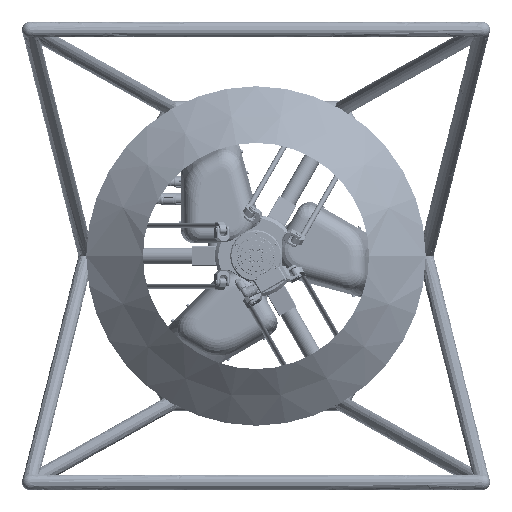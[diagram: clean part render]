
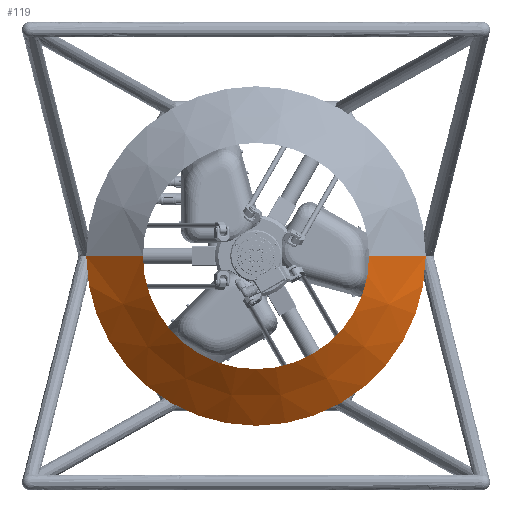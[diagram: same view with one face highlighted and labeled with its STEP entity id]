
A CAD part, front view. The second image highlights one B-rep face of the part: STEP entity #119.
In plain terms, the highlighted conical face has half-angle 51.34 degrees and reference radius 250 mm.
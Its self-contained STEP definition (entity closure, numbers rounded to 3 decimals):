
#68=DIRECTION('',(0.781,-0.625,0.));
#69=VECTOR('',#68,128.062);
#70=CARTESIAN_POINT('',(-300.,-595.,0.));
#71=LINE('',#70,#69);
#72=CARTESIAN_POINT('',(0.,-675.,0.));
#73=DIRECTION('',(0.,-1.,0.));
#74=DIRECTION('',(-1.,0.,0.));
#75=AXIS2_PLACEMENT_3D('',#72,#73,#74);
#77=DIRECTION('',(-0.781,-0.625,0.));
#78=VECTOR('',#77,128.062);
#79=CARTESIAN_POINT('',(300.,-595.,0.));
#80=LINE('',#79,#78);
#81=CARTESIAN_POINT('',(0.,-595.,0.));
#82=DIRECTION('',(0.,1.,0.));
#83=DIRECTION('',(1.,0.,0.));
#84=AXIS2_PLACEMENT_3D('',#81,#82,#83);
#96=CARTESIAN_POINT('',(-300.,-595.,0.));
#97=CARTESIAN_POINT('',(-200.,-675.,0.));
#98=VERTEX_POINT('',#96);
#99=VERTEX_POINT('',#97);
#100=CARTESIAN_POINT('',(300.,-595.,0.));
#101=CARTESIAN_POINT('',(200.,-675.,0.));
#102=VERTEX_POINT('',#100);
#103=VERTEX_POINT('',#101);
#104=CARTESIAN_POINT('',(0.,-635.,0.));
#105=DIRECTION('',(0.,1.,0.));
#106=DIRECTION('',(1.,0.,0.));
#107=AXIS2_PLACEMENT_3D('',#104,#105,#106);
#108=CONICAL_SURFACE('',#107,250.,51.34);
#110=ORIENTED_EDGE('',*,*,#109,.T.);
#112=ORIENTED_EDGE('',*,*,#111,.T.);
#114=ORIENTED_EDGE('',*,*,#113,.F.);
#116=ORIENTED_EDGE('',*,*,#115,.T.);
#117=EDGE_LOOP('',(#110,#112,#114,#116));
#118=FACE_OUTER_BOUND('',#117,.F.);
#119=ADVANCED_FACE('',(#118),#108,.T.);
#76=CIRCLE('',#75,200.);
#85=CIRCLE('',#84,300.);
#109=EDGE_CURVE('',#98,#99,#71,.T.);
#111=EDGE_CURVE('',#99,#103,#76,.T.);
#113=EDGE_CURVE('',#102,#103,#80,.T.);
#115=EDGE_CURVE('',#102,#98,#85,.T.);
